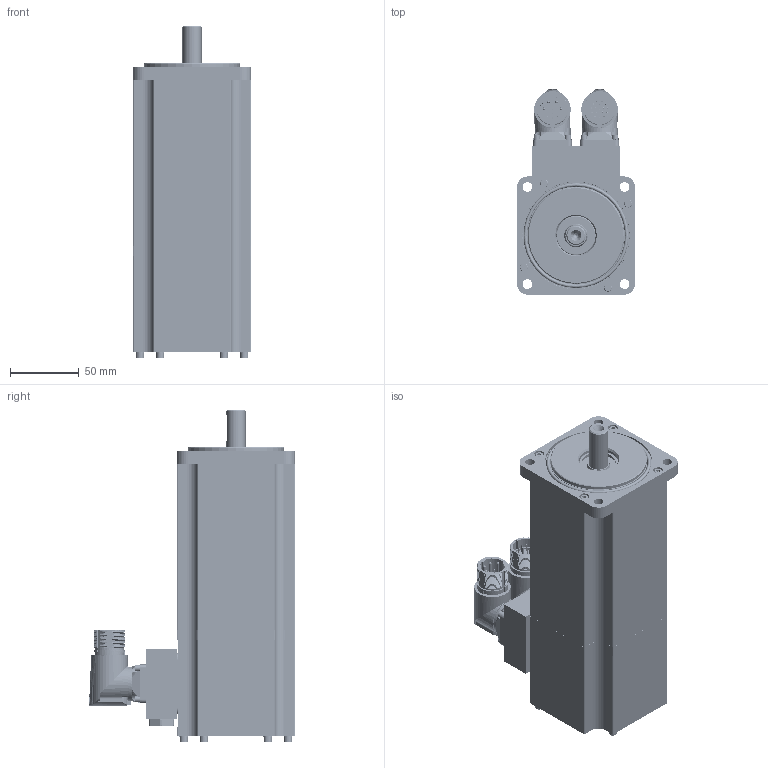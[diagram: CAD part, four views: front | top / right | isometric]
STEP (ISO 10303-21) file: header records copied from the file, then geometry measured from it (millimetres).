
FILE_DESCRIPTION (( 'STEP AP203' ), '1' );
FILE_NAME ('073707A.stp', '2021-07-19T12:52:27', ( '' ), ( '' ), 'SwSTEP 2.0', 'SolidWorks 2019', '' );
FILE_SCHEMA (( 'CONFIG_CONTROL_DESIGN' ));
Products named in the file (1): 073707A
Bounding box: 86 x 149.91 x 241.53 mm (x, y, z)
Volume: 1097281.9 mm3; surface area: 379863.3 mm2
Topology: 177 solids, 179 shells, 9553 faces, 25260 edges, 16416 vertices
Faces by surface type: plane 4235, cylinder 3054, bspline 1149, cone 560, torus 489, sphere 66
Entity records: 528159 total; most frequent: CARTESIAN_POINT 302061, ORIENTED_EDGE 50000, DIRECTION 42698, EDGE_CURVE 25000, VERTEX_POINT 16336, AXIS2_PLACEMENT_3D 14452, LINE 13794, VECTOR 13794
